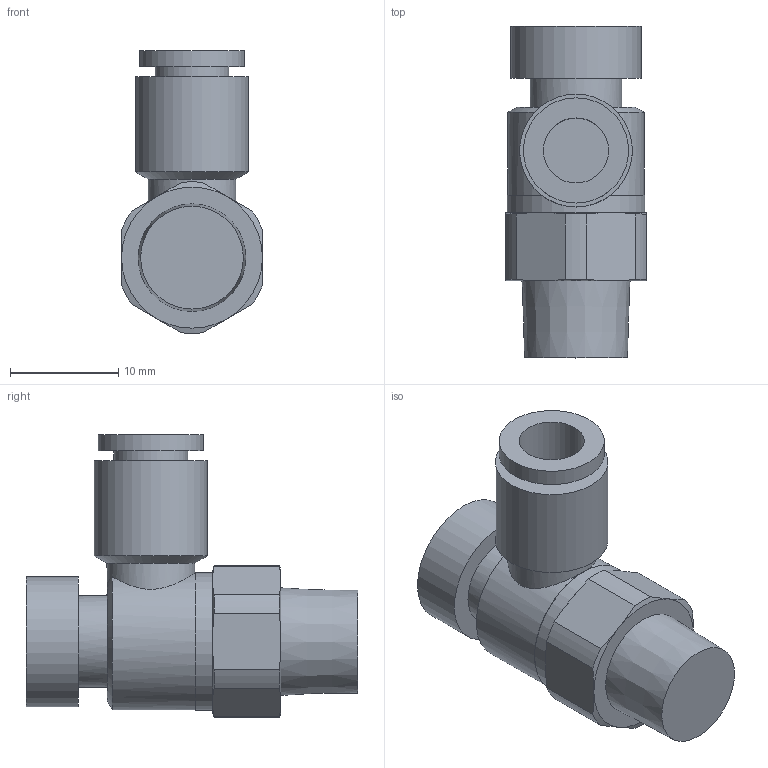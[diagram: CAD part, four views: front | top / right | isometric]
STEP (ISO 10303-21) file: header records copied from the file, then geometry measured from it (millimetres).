
FILE_DESCRIPTION(/* description */ ('STEP AP214'),/* implementation_level */ '2;1');
FILE_NAME(/* name */ 'AS2201F-01-06SA',/* time_stamp */ '2024-10-24T14:05:33+02:00',/* author */ ('License CC BY-ND 4.0'),/* organization */ ('CADENAS'),/* preprocessor_version */ 'ST-DEVELOPER v19.3',/* originating_system */ 'PARTsolutions',/* authorisation */ ' ');
FILE_SCHEMA (('AUTOMOTIVE_DESIGN {1 0 10303 214 3 1 1}'));
Length unit declared in the file: millimetre
Products named in the file (1): AS2201F-01-06SA
Bounding box: 13 x 30.6 x 26.09 mm (x, y, z)
Volume: 3953.7 mm3; surface area: 2291.4 mm2
Topology: 1 solids, 1 shells, 47 faces, 100 edges, 62 vertices
Faces by surface type: plane 17, cylinder 15, cone 15
Full cylindrical faces by diameter (mm): 6 x1, 6.79 x1, 8.1 x1, 8.45 x1, 9.7 x1, 10.4 x1, 12 x1, 12.6 x1, 12.7 x1
Entity records: 1257 total; most frequent: CARTESIAN_POINT 292, DIRECTION 198, ORIENTED_EDGE 172, AXIS2_PLACEMENT_3D 92, EDGE_CURVE 86, EDGE_LOOP 65, FACE_BOUND 65, VERTEX_POINT 59
